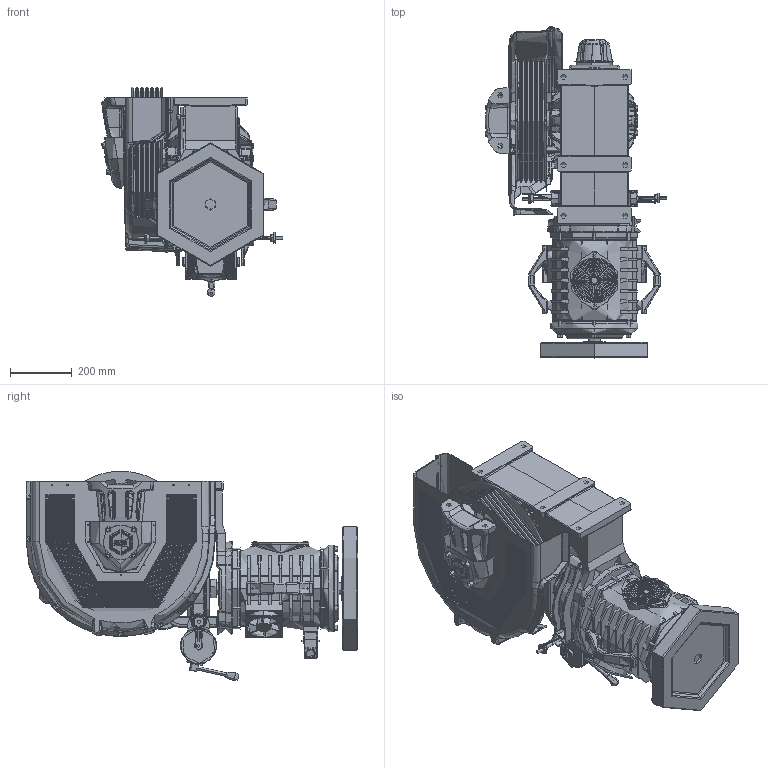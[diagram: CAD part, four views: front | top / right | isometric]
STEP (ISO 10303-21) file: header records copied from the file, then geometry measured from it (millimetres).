
FILE_DESCRIPTION (( 'STEP AP214' ), '1' );
FILE_NAME ('STC90080.STEP', '2026-01-20T10:02:48', ( '' ), ( '' ), 'SwSTEP 2.0', 'SolidWorks 2023', '' );
FILE_SCHEMA (( 'AUTOMOTIVE_DESIGN' ));
Length unit declared in the file: millimetre
Products named in the file (1): STC90080
Bounding box: 586.99 x 1073.96 x 679.18 mm (x, y, z)
Topology: 94 solids, 102 shells, 8629 faces, 21262 edges, 12745 vertices
Faces by surface type: plane 2568, cylinder 2493, bspline 1806, torus 854, cone 621, sphere 287
Full cylindrical faces by diameter (mm): 20 x3
Entity records: 333692 total; most frequent: CARTESIAN_POINT 141850, ORIENTED_EDGE 42226, DIRECTION 37556, EDGE_CURVE 21113, AXIS2_PLACEMENT_3D 15104, VERTEX_POINT 12709, EDGE_LOOP 9412, FACE_OUTER_BOUND 8627
